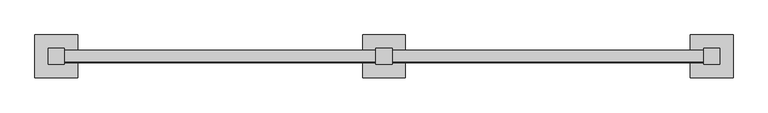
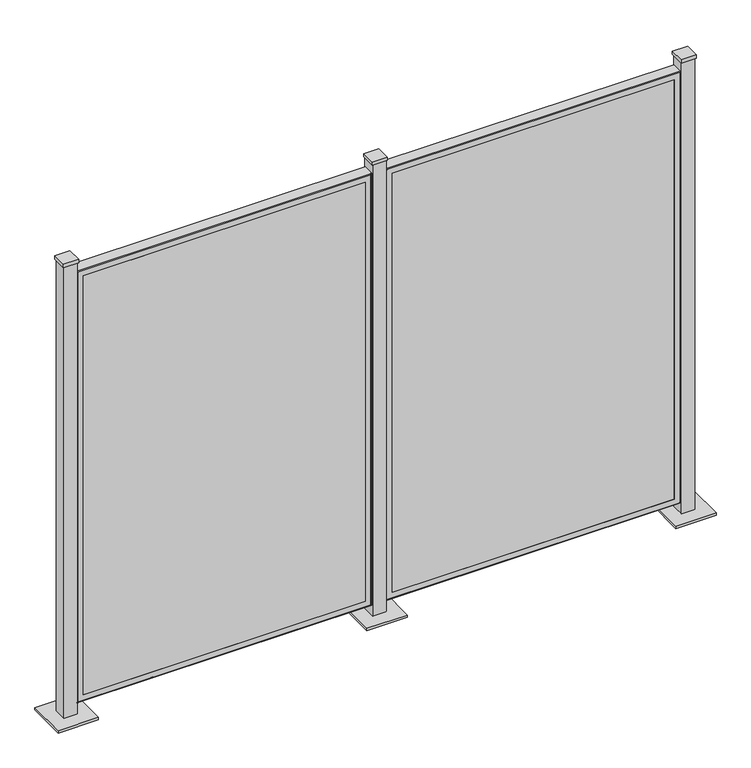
"""IFC4 building model written with IfcOpenShell, lengths in millimetres: proxy geometry, VIVA-Railings_Special-Equipment_Architectural-Fence-&-Landscape-Screens : 44” x 68” - Aluminum 1/8''."""

from ifc_helpers import new_model, si_unit, frame, origin, origin_with_axes, place, context, project, spatial, polyline, ellipse_curve, outline, extrude, source, transform, mapped, element, save
from ifc_brep_helpers import plane_surface, cylinder_surface, revolved_surface, advanced_brep


def specialty_equipment_32700f90(model_context):
    return source(origin(), model_context, "Body", "SolidModel", [
        extrude(outline(polyline([(2489.2, 76.2), (2489.2, -76.2), (2336.8, -76.2), (2336.8, 76.2), (2489.2, 76.2)])), origin_with_axes(), (0.0, 0.0, 1.0), 9.525),
        extrude(outline(polyline([(2441.575, -28.575), (2384.425, -28.575), (2384.425, 28.575), (2441.575, 28.575), (2441.575, -28.575)])), frame((0.0, 0.0, 1816.1), z_axis=(0.0, 0.0, 1.0), x_axis=(1.0, 0.0, 0.0)), (0.0, 0.0, 1.0), 12.7),
        extrude(outline(polyline([(2387.6, 25.4), (2438.4, 25.4), (2438.4, -25.4), (2387.6, -25.4), (2387.6, 25.4)]), holes=[polyline([(2390.775, -22.225), (2435.225, -22.225), (2435.225, 22.225), (2390.775, 22.225), (2390.775, -22.225)])]), frame((0.0, 0.0, 9.525), z_axis=(0.0, 0.0, 1.0), x_axis=(1.0, 0.0, 0.0)), (0.0, 0.0, 1.0), 1806.575),
        advanced_brep(
        [(2387.6, 22.225, 1778.025), (2387.6, -19.05, 1778.025), (2387.6, -19.05, 50.825), (2387.6, 22.225, 50.825), (2384.425, -17.4625, 1774.85), (2384.425, 22.225, 1774.85), (2384.425, 22.225, 54.0), (2384.425, -17.4625, 54.0), (2382.8375, -19.05, 1773.2625), (2382.8375, -19.05, 55.5875), (2362.2, -22.225, 1752.625), (2362.2, -19.05, 1752.625), (2362.2, -19.05, 76.225), (2362.2, -22.225, 76.225), (2384.425, -22.225, 1774.85), (2384.425, -22.225, 54.0), (1270.0, -19.05, 50.825), (1270.0, 22.225, 50.825), (1273.175, 22.225, 54.0), (1273.175, -17.4625, 54.0), (1274.7625, -19.05, 55.5875), (1295.4, -19.05, 76.225), (1295.4, -22.225, 76.225), (1273.175, -22.225, 54.0), (1270.0, -19.05, 1778.025), (1270.0, 22.225, 1778.025), (1273.175, 22.225, 1774.85), (1273.175, -17.4625, 1774.85), (1274.7625, -19.05, 1773.2625), (1295.4, -19.05, 1752.625), (1295.4, -22.225, 1752.625), (1273.175, -22.225, 1774.85)],
        [
            (0, 1),
            (1, 2),
            (2, 3),
            (3, 0),
            (4, 5),
            (5, 6),
            (6, 7),
            (7, 4),
            (8, 4, ellipse_curve(frame((2382.8375, -17.4625, 1773.2625), z_axis=(-0.7071067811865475, 0.0, 0.7071067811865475), x_axis=(-0.7071067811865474, 0.0, -0.7071067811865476)), 2.245064, 1.5875)),
            (7, 9, ellipse_curve(frame((2382.8375, -17.4625, 55.5875), z_axis=(-0.7071067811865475, 0.0, -0.7071067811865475), x_axis=(0.7071067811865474, 0.0, -0.7071067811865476)), 2.245064, 1.5875)),
            (9, 8),
            (10, 11),
            (11, 12),
            (12, 13),
            (13, 10),
            (1, 14, ellipse_curve(frame((2384.425, -19.05, 1774.85), z_axis=(0.7071067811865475, 0.0, -0.7071067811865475), x_axis=(0.7071067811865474, 0.0, 0.7071067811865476)), 4.4901281, 3.175)),
            (14, 15),
            (15, 2, ellipse_curve(frame((2384.425, -19.05, 54.0), z_axis=(0.7071067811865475, 0.0, 0.7071067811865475), x_axis=(-0.7071067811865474, 0.0, 0.7071067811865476)), 4.4901281, 3.175)),
            (2, 16),
            (16, 17),
            (17, 3),
            (6, 18),
            (18, 19),
            (19, 7),
            (19, 20, ellipse_curve(frame((1274.7625, -17.4625, 55.5875), z_axis=(-0.7071067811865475, 0.0, 0.7071067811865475), x_axis=(-0.7071067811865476, 0.0, -0.7071067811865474)), 2.245064, 1.5875)),
            (20, 9),
            (12, 21),
            (21, 22),
            (22, 13),
            (15, 23),
            (23, 16, ellipse_curve(frame((1273.175, -19.05, 54.0), z_axis=(0.7071067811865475, 0.0, -0.7071067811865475), x_axis=(0.7071067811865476, 0.0, 0.7071067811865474)), 4.4901281, 3.175)),
            (16, 24),
            (24, 25),
            (25, 17),
            (18, 26),
            (26, 27),
            (27, 19),
            (27, 28, ellipse_curve(frame((1274.7625, -17.4625, 1773.2625), z_axis=(0.7071067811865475, 0.0, 0.7071067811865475), x_axis=(-0.7071067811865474, 0.0, 0.7071067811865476)), 2.245064, 1.5875)),
            (28, 20),
            (21, 29),
            (29, 30),
            (30, 22),
            (23, 31),
            (31, 24, ellipse_curve(frame((1273.175, -19.05, 1774.85), z_axis=(-0.7071067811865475, 0.0, -0.7071067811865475), x_axis=(0.7071067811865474, 0.0, -0.7071067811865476)), 4.4901281, 3.175)),
            (24, 1),
            (0, 25),
            (5, 26),
            (4, 27),
            (8, 28),
            (11, 29),
            (10, 30),
            (14, 31),
        ],
        [
            plane_surface(frame((2387.6, -19.05, 1778.025), z_axis=(1.0, 0.0, 0.0), x_axis=(0.0, 0.0, -1.0))),
            plane_surface(frame((2384.425, 22.225, 1774.85), z_axis=(-1.0, 0.0, 0.0), x_axis=(0.0, 0.0, -1.0))),
            revolved_surface(polyline([(2384.425, -17.4625, 54.0), (2384.425, -17.4625, 1774.85)]), (2382.8375, -17.4625, 1778.025), (0.0, 0.0, -1.0)),
            plane_surface(frame((2362.2, -19.05, 1752.625), z_axis=(-1.0, 0.0, 0.0), x_axis=(0.0, 0.0, -1.0))),
            cylinder_surface(frame((2384.425, -19.05, 1778.025), z_axis=(0.0, 0.0, 1.0), x_axis=(1.0, 0.0, 0.0)), 3.175),
            plane_surface(frame((2387.6, -19.05, 50.825), z_axis=(0.0, 0.0, -1.0), x_axis=(-1.0, 0.0, 0.0))),
            plane_surface(frame((2384.425, 22.225, 54.0), z_axis=(0.0, 0.0, 1.0), x_axis=(-1.0, 0.0, 0.0))),
            revolved_surface(polyline([(1273.175, -17.4625, 54.0), (2384.425, -17.4625, 54.0)]), (2387.6, -17.4625, 55.5875), (-1.0, 0.0, 0.0)),
            plane_surface(frame((2362.2, -19.05, 76.225), z_axis=(0.0, 0.0, 1.0), x_axis=(-1.0, 0.0, 0.0))),
            cylinder_surface(frame((2387.6, -19.05, 54.0), z_axis=(1.0, 0.0, 0.0), x_axis=(0.0, 0.0, -1.0)), 3.175),
            plane_surface(frame((1270.0, -19.05, 50.825), z_axis=(-1.0, 0.0, 0.0), x_axis=(0.0, 0.0, 1.0))),
            plane_surface(frame((1273.175, 22.225, 54.0), z_axis=(1.0, 0.0, 0.0), x_axis=(0.0, 0.0, 1.0))),
            revolved_surface(polyline([(1273.175, -17.4625, 1774.85), (1273.175, -17.4625, 54.0)]), (1274.7625, -17.4625, 50.825), (0.0, 0.0, 1.0)),
            plane_surface(frame((1295.4, -19.05, 76.225), z_axis=(1.0, 0.0, 0.0), x_axis=(0.0, 0.0, 1.0))),
            cylinder_surface(frame((1273.175, -19.05, 50.825), z_axis=(0.0, 0.0, -1.0), x_axis=(-1.0, 0.0, 0.0)), 3.175),
            plane_surface(frame((1270.0, -19.05, 1778.025), z_axis=(0.0, 0.0, 1.0), x_axis=(1.0, 0.0, 0.0))),
            plane_surface(frame((1270.0, 22.225, 1778.025), z_axis=(0.0, 1.0, 0.0), x_axis=(1.0, 0.0, 0.0))),
            plane_surface(frame((1273.175, 22.225, 1774.85), z_axis=(0.0, 0.0, -1.0), x_axis=(1.0, 0.0, 0.0))),
            revolved_surface(polyline([(2384.425, -17.4625, 1774.8500000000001), (1273.175, -17.4625, 1774.8500000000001)]), (1270.0, -17.4625, 1773.2625), (1.0, 0.0, 0.0)),
            plane_surface(frame((1274.7625, -19.05, 1773.2625), z_axis=(0.0, 1.0, 0.0), x_axis=(1.0, 0.0, 0.0))),
            plane_surface(frame((1295.4, -19.05, 1752.625), z_axis=(0.0, 0.0, -1.0), x_axis=(1.0, 0.0, 0.0))),
            plane_surface(frame((1295.4, -22.225, 1752.625), z_axis=(0.0, -1.0, 0.0), x_axis=(1.0, 0.0, 0.0))),
            cylinder_surface(frame((1270.0, -19.05, 1774.85), z_axis=(-1.0, 0.0, 0.0), x_axis=(0.0, 0.0, 1.0)), 3.175),
        ],
        [
            (0, [[1, 2, 3, 4]]),
            (1, [[5, 6, 7, 8]]),
            (2, [[9, -8, 10, 11]]),
            (3, [[12, 13, 14, 15]]),
            (4, [[16, 17, 18, -2]]),
            (5, [[-3, 19, 20, 21]]),
            (6, [[-7, 22, 23, 24]]),
            (7, [[-10, -24, 25, 26]]),
            (8, [[-14, 27, 28, 29]]),
            (9, [[-18, 30, 31, -19]]),
            (10, [[-20, 32, 33, 34]]),
            (11, [[-23, 35, 36, 37]]),
            (12, [[-25, -37, 38, 39]]),
            (13, [[-28, 40, 41, 42]]),
            (14, [[-31, 43, 44, -32]]),
            (15, [[-33, 45, -1, 46]]),
            (16, [[-21, -34, -46, -4], [47, -35, -22, -6]]),
            (17, [[-36, -47, -5, 48]]),
            (18, [[-38, -48, -9, 49]]),
            (19, [[-26, -39, -49, -11], [50, -40, -27, -13]]),
            (20, [[-41, -50, -12, 51]]),
            (21, [[52, -43, -30, -17], [-29, -42, -51, -15]]),
            (22, [[-44, -52, -16, -45]]),
        ],
    ),
        advanced_brep(
        [(1219.2, 22.225, 1778.025), (1219.2, -19.05, 1778.025), (1219.2, -19.05, 50.825), (1219.2, 22.225, 50.825), (1216.025, -17.4625, 1774.85), (1216.025, 22.225, 1774.85), (1216.025, 22.225, 54.0), (1216.025, -17.4625, 54.0), (1214.4375, -19.05, 1773.2625), (1214.4375, -19.05, 55.5875), (1193.8, -22.225, 1752.625), (1193.8, -19.05, 1752.625), (1193.8, -19.05, 76.225), (1193.8, -22.225, 76.225), (1216.025, -22.225, 1774.85), (1216.025, -22.225, 54.0), (101.6, -19.05, 50.825), (101.6, 22.225, 50.825), (104.775, 22.225, 54.0), (104.775, -17.4625, 54.0), (106.3625, -19.05, 55.5875), (127.0, -19.05, 76.225), (127.0, -22.225, 76.225), (104.775, -22.225, 54.0), (101.6, -19.05, 1778.025), (101.6, 22.225, 1778.025), (104.775, 22.225, 1774.85), (104.775, -17.4625, 1774.85), (106.3625, -19.05, 1773.2625), (127.0, -19.05, 1752.625), (127.0, -22.225, 1752.625), (104.775, -22.225, 1774.85)],
        [
            (0, 1),
            (1, 2),
            (2, 3),
            (3, 0),
            (4, 5),
            (5, 6),
            (6, 7),
            (7, 4),
            (8, 4, ellipse_curve(frame((1214.4375, -17.4625, 1773.2625), z_axis=(-0.7071067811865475, 0.0, 0.7071067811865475), x_axis=(-0.7071067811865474, 0.0, -0.7071067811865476)), 2.245064, 1.5875)),
            (7, 9, ellipse_curve(frame((1214.4375, -17.4625, 55.5875), z_axis=(-0.7071067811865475, 0.0, -0.7071067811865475), x_axis=(0.7071067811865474, 0.0, -0.7071067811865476)), 2.245064, 1.5875)),
            (9, 8),
            (10, 11),
            (11, 12),
            (12, 13),
            (13, 10),
            (1, 14, ellipse_curve(frame((1216.025, -19.05, 1774.85), z_axis=(0.7071067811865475, 0.0, -0.7071067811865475), x_axis=(0.7071067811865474, 0.0, 0.7071067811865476)), 4.4901281, 3.175)),
            (14, 15),
            (15, 2, ellipse_curve(frame((1216.025, -19.05, 54.0), z_axis=(0.7071067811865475, 0.0, 0.7071067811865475), x_axis=(-0.7071067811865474, 0.0, 0.7071067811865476)), 4.4901281, 3.175)),
            (2, 16),
            (16, 17),
            (17, 3),
            (6, 18),
            (18, 19),
            (19, 7),
            (19, 20, ellipse_curve(frame((106.3625, -17.4625, 55.5875), z_axis=(-0.7071067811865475, 0.0, 0.7071067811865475), x_axis=(-0.7071067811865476, 0.0, -0.7071067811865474)), 2.245064, 1.5875)),
            (20, 9),
            (12, 21),
            (21, 22),
            (22, 13),
            (15, 23),
            (23, 16, ellipse_curve(frame((104.775, -19.05, 54.0), z_axis=(0.7071067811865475, 0.0, -0.7071067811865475), x_axis=(0.7071067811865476, 0.0, 0.7071067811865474)), 4.4901281, 3.175)),
            (16, 24),
            (24, 25),
            (25, 17),
            (18, 26),
            (26, 27),
            (27, 19),
            (27, 28, ellipse_curve(frame((106.3625, -17.4625, 1773.2625), z_axis=(0.7071067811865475, 0.0, 0.7071067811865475), x_axis=(-0.7071067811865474, 0.0, 0.7071067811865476)), 2.245064, 1.5875)),
            (28, 20),
            (21, 29),
            (29, 30),
            (30, 22),
            (23, 31),
            (31, 24, ellipse_curve(frame((104.775, -19.05, 1774.85), z_axis=(-0.7071067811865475, 0.0, -0.7071067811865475), x_axis=(0.7071067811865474, 0.0, -0.7071067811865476)), 4.4901281, 3.175)),
            (24, 1),
            (0, 25),
            (5, 26),
            (4, 27),
            (8, 28),
            (11, 29),
            (10, 30),
            (14, 31),
        ],
        [
            plane_surface(frame((1219.2, -19.05, 1778.025), z_axis=(1.0, 0.0, 0.0), x_axis=(0.0, 0.0, -1.0))),
            plane_surface(frame((1216.025, 22.225, 1774.85), z_axis=(-1.0, 0.0, 0.0), x_axis=(0.0, 0.0, -1.0))),
            revolved_surface(polyline([(1216.025, -17.4625, 54.0), (1216.025, -17.4625, 1774.85)]), (1214.4375, -17.4625, 1778.025), (0.0, 0.0, -1.0)),
            plane_surface(frame((1193.8, -19.05, 1752.625), z_axis=(-1.0, 0.0, 0.0), x_axis=(0.0, 0.0, -1.0))),
            cylinder_surface(frame((1216.025, -19.05, 1778.025), z_axis=(0.0, 0.0, 1.0), x_axis=(1.0, 0.0, 0.0)), 3.175),
            plane_surface(frame((1219.2, -19.05, 50.825), z_axis=(0.0, 0.0, -1.0), x_axis=(-1.0, 0.0, 0.0))),
            plane_surface(frame((1216.025, 22.225, 54.0), z_axis=(0.0, 0.0, 1.0), x_axis=(-1.0, 0.0, 0.0))),
            revolved_surface(polyline([(104.77500000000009, -17.4625, 54.0), (1216.025, -17.4625, 54.0)]), (1219.2, -17.4625, 55.5875), (-1.0, 0.0, 0.0)),
            plane_surface(frame((1193.8, -19.05, 76.225), z_axis=(0.0, 0.0, 1.0), x_axis=(-1.0, 0.0, 0.0))),
            cylinder_surface(frame((1219.2, -19.05, 54.0), z_axis=(1.0, 0.0, 0.0), x_axis=(0.0, 0.0, -1.0)), 3.175),
            plane_surface(frame((101.6, -19.05, 50.825), z_axis=(-1.0, 0.0, 0.0), x_axis=(0.0, 0.0, 1.0))),
            plane_surface(frame((104.775, 22.225, 54.0), z_axis=(1.0, 0.0, 0.0), x_axis=(0.0, 0.0, 1.0))),
            revolved_surface(polyline([(104.77499999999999, -17.4625, 1774.85), (104.77499999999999, -17.4625, 54.0)]), (106.3625, -17.4625, 50.825), (0.0, 0.0, 1.0)),
            plane_surface(frame((127.0, -19.05, 76.225), z_axis=(1.0, 0.0, 0.0), x_axis=(0.0, 0.0, 1.0))),
            cylinder_surface(frame((104.775, -19.05, 50.825), z_axis=(0.0, 0.0, -1.0), x_axis=(-1.0, 0.0, 0.0)), 3.175),
            plane_surface(frame((101.6, -19.05, 1778.025), z_axis=(0.0, 0.0, 1.0), x_axis=(1.0, 0.0, 0.0))),
            plane_surface(frame((101.6, 22.225, 1778.025), z_axis=(0.0, 1.0, 0.0), x_axis=(1.0, 0.0, 0.0))),
            plane_surface(frame((104.775, 22.225, 1774.85), z_axis=(0.0, 0.0, -1.0), x_axis=(1.0, 0.0, 0.0))),
            revolved_surface(polyline([(1216.025, -17.4625, 1774.8500000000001), (104.775, -17.4625, 1774.8500000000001)]), (101.6, -17.4625, 1773.2625), (1.0, 0.0, 0.0)),
            plane_surface(frame((106.3625, -19.05, 1773.2625), z_axis=(0.0, 1.0, 0.0), x_axis=(1.0, 0.0, 0.0))),
            plane_surface(frame((127.0, -19.05, 1752.625), z_axis=(0.0, 0.0, -1.0), x_axis=(1.0, 0.0, 0.0))),
            plane_surface(frame((127.0, -22.225, 1752.625), z_axis=(0.0, -1.0, 0.0), x_axis=(1.0, 0.0, 0.0))),
            cylinder_surface(frame((101.6, -19.05, 1774.85), z_axis=(-1.0, 0.0, 0.0), x_axis=(0.0, 0.0, 1.0)), 3.175),
        ],
        [
            (0, [[1, 2, 3, 4]]),
            (1, [[5, 6, 7, 8]]),
            (2, [[9, -8, 10, 11]]),
            (3, [[12, 13, 14, 15]]),
            (4, [[16, 17, 18, -2]]),
            (5, [[-3, 19, 20, 21]]),
            (6, [[-7, 22, 23, 24]]),
            (7, [[-10, -24, 25, 26]]),
            (8, [[-14, 27, 28, 29]]),
            (9, [[-18, 30, 31, -19]]),
            (10, [[-20, 32, 33, 34]]),
            (11, [[-23, 35, 36, 37]]),
            (12, [[-25, -37, 38, 39]]),
            (13, [[-28, 40, 41, 42]]),
            (14, [[-31, 43, 44, -32]]),
            (15, [[-33, 45, -1, 46]]),
            (16, [[-21, -34, -46, -4], [47, -35, -22, -6]]),
            (17, [[-36, -47, -5, 48]]),
            (18, [[-38, -48, -9, 49]]),
            (19, [[-26, -39, -49, -11], [50, -40, -27, -13]]),
            (20, [[-41, -50, -12, 51]]),
            (21, [[52, -43, -30, -17], [-29, -42, -51, -15]]),
            (22, [[-44, -52, -16, -45]]),
        ],
    ),
        extrude(outline(polyline([(2362.2, -22.225), (1295.4, -22.225), (1295.4, -19.05), (2362.2, -19.05), (2362.2, -22.225)])), frame((0.0, 0.0, 76.225), z_axis=(0.0, 0.0, 1.0), x_axis=(1.0, 0.0, 0.0)), (0.0, 0.0, 1.0), 1676.4),
        extrude(outline(polyline([(1193.8, -22.225), (127.0, -22.225), (127.0, -19.05), (1193.8, -19.05), (1193.8, -22.225)])), frame((0.0, 0.0, 76.225), z_axis=(0.0, 0.0, 1.0), x_axis=(1.0, 0.0, 0.0)), (0.0, 0.0, 1.0), 1676.4),
        extrude(outline(polyline([(1320.8, 76.2), (1320.8, -76.2), (1168.4, -76.2), (1168.4, 76.2), (1320.8, 76.2)])), origin_with_axes(), (0.0, 0.0, 1.0), 9.525),
        extrude(outline(polyline([(152.4, 76.2), (152.4, -76.2), (0.0, -76.2), (0.0, 76.2), (152.4, 76.2)])), origin_with_axes(), (0.0, 0.0, 1.0), 9.525),
        extrude(outline(polyline([(1273.175, -28.575), (1216.025, -28.575), (1216.025, 28.575), (1273.175, 28.575), (1273.175, -28.575)])), frame((0.0, 0.0, 1816.1), z_axis=(0.0, 0.0, 1.0), x_axis=(1.0, 0.0, 0.0)), (0.0, 0.0, 1.0), 12.7),
        extrude(outline(polyline([(1219.2, 25.4), (1270.0, 25.4), (1270.0, -25.4), (1219.2, -25.4), (1219.2, 25.4)]), holes=[polyline([(1222.375, -22.225), (1266.825, -22.225), (1266.825, 22.225), (1222.375, 22.225), (1222.375, -22.225)])]), frame((0.0, 0.0, 9.525), z_axis=(0.0, 0.0, 1.0), x_axis=(1.0, 0.0, 0.0)), (0.0, 0.0, 1.0), 1806.575),
        extrude(outline(polyline([(104.775, -28.575), (47.625, -28.575), (47.625, 28.575), (104.775, 28.575), (104.775, -28.575)])), frame((0.0, 0.0, 1816.1), z_axis=(0.0, 0.0, 1.0), x_axis=(1.0, 0.0, 0.0)), (0.0, 0.0, 1.0), 12.7),
        extrude(outline(polyline([(50.8, 25.4), (101.6, 25.4), (101.6, -25.4), (50.8, -25.4), (50.8, 25.4)]), holes=[polyline([(53.975, -22.225), (98.425, -22.225), (98.425, 22.225), (53.975, 22.225), (53.975, -22.225)])]), frame((0.0, 0.0, 9.525), z_axis=(0.0, 0.0, 1.0), x_axis=(1.0, 0.0, 0.0)), (0.0, 0.0, 1.0), 1806.575),
    ])


if __name__ == "__main__":
    model = new_model("IFC4")
    model_context = context("Model", 3, world=origin())
    ifc_project = project(units=[si_unit("LENGTHUNIT", "METRE", prefix="MILLI")], contexts=[model_context])
    site = spatial("IfcSite", under=ifc_project)
    building = spatial("IfcBuilding", under=site)
    placement = place(None, origin())
    specialty_equipment_shape = specialty_equipment_32700f90(model_context)
    element("IfcBuildingElementProxy", 1, Name="VIVA-Railings_Special-Equipment_Architectural-Fence-&-Landscape-Screens : 44” x 68” - Aluminum 1/8''", ObjectType="VIVA-Railings_Special-Equipment_Architectural-Fence-&-Landscape-Screens : 44” x 68” - Aluminum 1/8''", at=placement, inside=building, context=model_context, shape_type="MappedRepresentation", body=[
        mapped(specialty_equipment_shape, transform((0.0, 0.0, 0.0), x_axis=(1.0, 0.0, 0.0), y_axis=(0.0, 1.0, 0.0), z_axis=(0.0, 0.0, 1.0))),
    ])
    save(model, "model.ifc")
